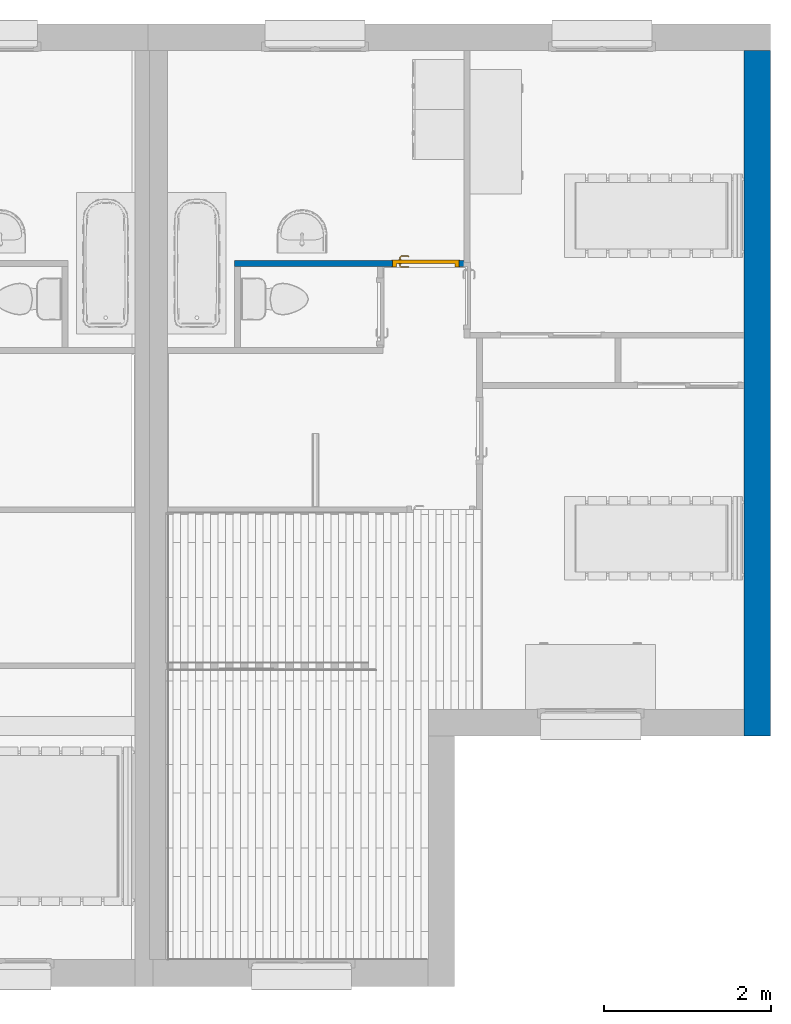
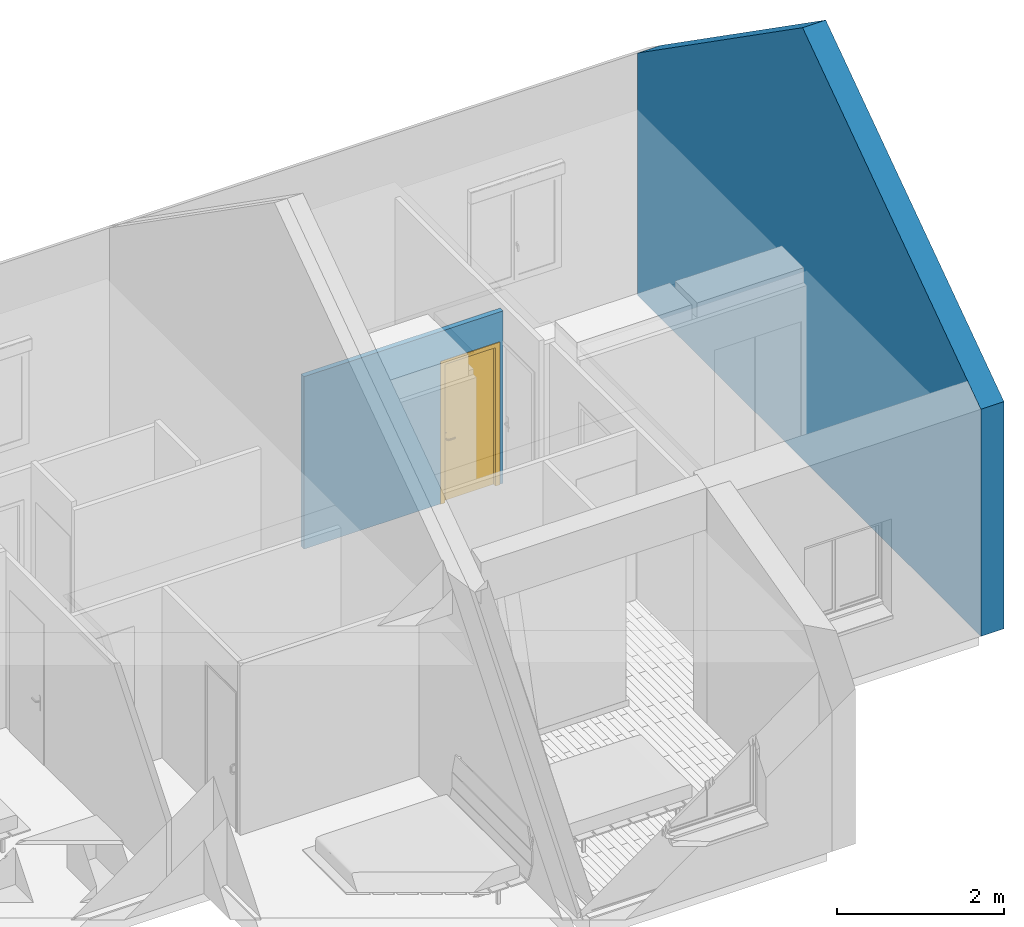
# One storey, part 37 of 50: 2 walls, 1 door, 1 opening.
"""IFC2X3 building model written with IfcOpenShell, lengths in metres."""

from ifc_helpers import new_model, entity, si_unit, converted_unit, derived_unit, direction, frame, frame_2d, origin, place, context, subcontext, project, spatial, polyline, rectangle, extrude, clip, bounded_halfspace, faceted_brep, source, transform, mapped, material, material_list, layer, layer_set, layer_usage, type_object, type_shapes, element, fill, save


model = new_model("IFC2X3")

# Units and contexts
model_context = context("Model", 3, precision=1e-05, world=origin(), true_north=direction((6.12303176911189e-17, 1.0)))
context_of_model = context(None, 3, precision=1e-05, world=origin(), true_north=direction((6.12303176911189e-17, 1.0)))
body_context = subcontext(model_context, "Body", "Model", "MODEL_VIEW")
ifc_project = project(units=[si_unit("LENGTHUNIT", "METRE"), si_unit("AREAUNIT", "SQUARE_METRE"), si_unit("VOLUMEUNIT", "CUBIC_METRE"), converted_unit("PLANEANGLEUNIT", "DEGREE", entity("IfcRatioMeasure", 0.0174532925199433), si_unit("PLANEANGLEUNIT", "RADIAN"), dimensions=[0, 0, 0, 0, 0, 0, 0]), si_unit("MASSUNIT", "GRAM", prefix="KILO"), si_unit("TIMEUNIT", "SECOND"), si_unit("FREQUENCYUNIT", "HERTZ"), si_unit("THERMODYNAMICTEMPERATUREUNIT", "DEGREE_CELSIUS"), derived_unit("THERMALTRANSMITTANCEUNIT", [(si_unit("MASSUNIT", "GRAM", prefix="KILO"), 1), (si_unit("THERMODYNAMICTEMPERATUREUNIT", "KELVIN"), -1), (si_unit("TIMEUNIT", "SECOND"), -3)]), derived_unit("VOLUMETRICFLOWRATEUNIT", [(si_unit("LENGTHUNIT", "METRE"), 3), (si_unit("TIMEUNIT", "SECOND"), -1)]), si_unit("ELECTRICCURRENTUNIT", "AMPERE"), si_unit("ELECTRICVOLTAGEUNIT", "VOLT"), si_unit("POWERUNIT", "WATT"), si_unit("FORCEUNIT", "NEWTON", prefix="KILO"), si_unit("ILLUMINANCEUNIT", "LUX"), si_unit("LUMINOUSFLUXUNIT", "LUMEN"), si_unit("LUMINOUSINTENSITYUNIT", "CANDELA"), si_unit("PRESSUREUNIT", "PASCAL")], contexts=[model_context, context_of_model])

# Site, building, storey
site_placement = place(None, origin())
site = spatial("IfcSite", under=ifc_project, at=site_placement, Name="Surface", CompositionType="ELEMENT")
building_placement = place(site_placement, origin())
building = spatial("IfcBuilding", under=site, at=building_placement, CompositionType="ELEMENT")
storey_placement = place(building_placement, frame((0.0, 0.0, 2.82)))
storey = spatial("IfcBuildingStorey", under=building, at=storey_placement, Name="ETAGE", CompositionType="ELEMENT", Elevation=2.82)

# Wall
ifc_material_1 = material(Name="Enduit blanc cassé2")
ifc_layer_1 = layer(ifc_material_1, 0.02)
ifc_material_2 = material(Name="Parpaing")
ifc_layer_2 = layer(ifc_material_2, 0.2)
ifc_material_3 = material(Name="Isolant")
ifc_layer_3 = layer(ifc_material_3, 0.1)
ifc_layer_set_1 = layer_set([ifc_layer_1, ifc_layer_2, ifc_layer_3], Name="Mur de base:Ext. Parpaing 20 + Isolant 10 enduit blanc cassé")
ifc_layer_usage_1 = layer_usage(ifc_layer_set_1, "AXIS2", "NEGATIVE", 0.16)
wall_type_1 = type_object("IfcWallType", Name="Mur de base:Ext. Parpaing 20 + Isolant 10 enduit blanc cassé", PredefinedType="STANDARD", material=ifc_layer_set_1)
wall_1_placement = place(storey_placement, frame((90.9950487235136, 92.1475239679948, 0.0), z_axis=(0.0, 0.0, 1.0), x_axis=(0.0, -1.0, 0.0)))
element("IfcWallStandardCase", 1, at=wall_1_placement, inside=storey, type_object=wall_type_1, material=ifc_layer_usage_1, Name="Mur de base:Ext. Parpaing 20 + Isolant 10 enduit blanc cassé", ObjectType="Mur de base:Ext. Parpaing 20 + Isolant 10 enduit blanc cassé", context=body_context, shape_type="Clipping", body=[
    clip(clip(extrude(rectangle(XDim=8.22, YDim=0.319999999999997, at=frame_2d((4.11, 5.55111512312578e-16), x_axis=(-1.0, 0.0))), origin(), (0.0, 0.0, 1.0), 6.30988618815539), bounded_halfspace(frame((0.0, -0.159999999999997, 3.5440664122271), z_axis=(-0.573576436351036, 0.0, 0.819152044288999), x_axis=(0.0, -1.0, 0.0)), False, frame((0.0, -0.159999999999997, 3.5440664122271)), polyline([(0.0, 0.0), (3.95000000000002, 0.0), (3.95000000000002, 0.320000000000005), (0.0, 0.319999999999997), (0.0, 0.0)]))), bounded_halfspace(frame((3.95000000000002, -0.160000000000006, 6.30988618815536), z_axis=(0.573576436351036, 0.0, 0.819152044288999), x_axis=(0.0, 1.0, 0.0)), False, frame((3.95000000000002, -0.160000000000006, 6.30988618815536)), polyline([(0.0, 0.0), (3.94999999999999, 0.0), (4.26999999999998, 0.0), (4.26999999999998, 0.320000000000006), (0.0, 0.319999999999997), (0.0, 0.0)]))),
])

# Wall, opening, door
ifc_material_4 = material(Name="Peinture - Blanc")
ifc_layer_4 = layer(ifc_material_4, 0.07)
ifc_layer_set_2 = layer_set([ifc_layer_4], Name="Mur de base:Int.  Platre 70 mm en blanc")
ifc_layer_usage_2 = layer_usage(ifc_layer_set_2, "AXIS2", "NEGATIVE", 0.035)
wall_type_2 = type_object("IfcWallType", Name="Mur de base:Int.  Platre 70 mm en blanc", PredefinedType="STANDARD", material=ifc_layer_set_2)
wall_2_placement = place(storey_placement, frame((84.7267857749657, 89.5925239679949, 0.0)))
wall_2 = element("IfcWallStandardCase", 2, at=wall_2_placement, inside=storey, type_object=wall_type_2, material=ifc_layer_usage_2, Name="Mur de base:Int.  Platre 70 mm en blanc", ObjectType="Mur de base:Int.  Platre 70 mm en blanc", context=body_context, shape_type="SweptSolid", body=[
    extrude(rectangle(XDim=2.75211659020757, YDim=0.0699999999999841, at=frame_2d((1.37605829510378, -2.04697370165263e-15), x_axis=(-1.0, 0.0))), origin(), (0.0, 0.0, 1.0), 2.52),
])
opening_placement = place(wall_2_placement, frame((1.89355829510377, -0.034999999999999, 0.0)))
opening = element("IfcOpeningElement", 3, at=opening_placement, cuts=wall_2, Name="FR_Simple (R):73 x 204 - (70):1", ObjectType="Opening", context=body_context, shape_type="SweptSolid", body=[
    extrude(rectangle(XDim=2.075, YDim=0.799999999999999, at=frame_2d((1.0375, 0.4), x_axis=(1.0, 0.0))), frame((0.0, 0.0, 0.0), z_axis=(0.0, 1.0, 0.0), x_axis=(0.0, 0.0, 1.0)), (0.0, 0.0, 1.0), 0.07),
])
ifc_material_5 = material(Name="Poignée Porte")
ifc_material_6 = material(Name="Dormants Portes")
ifc_material_7 = material(Name="Panneaux Portes")
ifc_material_list_1 = material_list([ifc_material_5, ifc_material_6, ifc_material_7])
ifc_material_list_2 = material_list([ifc_material_5, ifc_material_6, ifc_material_7])
door_style = type_object("IfcDoorStyle", Name="73 x 204 - (70)", ConstructionType="NOTDEFINED", OperationType="SINGLE_SWING_RIGHT", ParameterTakesPrecedence=False, Sizeable=False, material=ifc_material_list_2)
shared_shape = source(origin(), body_context, "Body", "Brep", [
    faceted_brep([(0.710000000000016, -0.0130000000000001, 0.764641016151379), (0.720352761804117, -0.0130000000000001, 0.766003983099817), (0.730000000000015, -0.0130000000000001, 0.770000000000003), (0.730000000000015, -0.0130000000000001, 0.980000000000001), (0.720352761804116, -0.0130000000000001, 0.983996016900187), (0.710000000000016, -0.0130000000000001, 0.985358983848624), (0.699647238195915, -0.0130000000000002, 0.983996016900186), (0.690000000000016, -0.0130000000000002, 0.980000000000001), (0.690000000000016, -0.0130000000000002, 0.770000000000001), (0.699647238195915, -0.0130000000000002, 0.766003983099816), (0.730000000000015, -0.00800000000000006, 0.980000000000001), (0.730000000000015, -0.00800000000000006, 0.770000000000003), (0.720352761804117, -0.00800000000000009, 0.766003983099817), (0.710000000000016, -0.00800000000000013, 0.764641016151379), (0.699647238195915, -0.00800000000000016, 0.766003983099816), (0.690000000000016, -0.00800000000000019, 0.770000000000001), (0.690000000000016, -0.00800000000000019, 0.980000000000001), (0.699647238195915, -0.00800000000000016, 0.983996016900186), (0.710000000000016, -0.00800000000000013, 0.985358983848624), (0.720352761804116, -0.00800000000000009, 0.983996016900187)], [[[0, 1, 2, 3, 4, 5, 6, 7, 8, 9]], [[10, 11, 12, 13, 14, 15, 16, 17, 18, 19]], [[1, 12, 11, 2]], [[0, 13, 12, 1]], [[9, 14, 13, 0]], [[9, 8, 15, 14]], [[15, 8, 7, 16]], [[6, 17, 16, 7]], [[5, 18, 17, 6]], [[4, 19, 18, 5]], [[4, 3, 10, 19]], [[10, 3, 2, 11]]]),
    faceted_brep([(0.730000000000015, 0.0319999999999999, 0.770000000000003), (0.730000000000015, 0.0319999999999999, 0.980000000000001), (0.720352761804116, 0.0319999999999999, 0.983996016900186), (0.710000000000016, 0.0319999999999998, 0.985358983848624), (0.699647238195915, 0.0319999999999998, 0.983996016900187), (0.690000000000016, 0.0319999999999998, 0.980000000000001), (0.690000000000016, 0.0319999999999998, 0.770000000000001), (0.699647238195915, 0.0319999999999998, 0.766003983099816), (0.710000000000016, 0.0319999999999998, 0.764641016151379), (0.720352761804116, 0.0319999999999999, 0.766003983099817), (0.710000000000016, 0.0369999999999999, 0.985358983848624), (0.720352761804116, 0.0369999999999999, 0.983996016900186), (0.730000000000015, 0.0369999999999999, 0.980000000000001), (0.730000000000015, 0.0369999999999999, 0.770000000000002), (0.720352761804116, 0.0369999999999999, 0.766003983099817), (0.710000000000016, 0.0369999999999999, 0.764641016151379), (0.699647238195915, 0.0369999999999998, 0.766003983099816), (0.690000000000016, 0.0369999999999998, 0.770000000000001), (0.690000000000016, 0.0369999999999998, 0.980000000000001), (0.699647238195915, 0.0369999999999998, 0.983996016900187)], [[[0, 1, 2, 3, 4, 5, 6, 7, 8, 9]], [[10, 11, 12, 13, 14, 15, 16, 17, 18, 19]], [[4, 19, 18, 5]], [[3, 10, 19, 4]], [[2, 11, 10, 3]], [[2, 1, 12, 11]], [[12, 1, 0, 13]], [[9, 14, 13, 0]], [[8, 15, 14, 9]], [[7, 16, 15, 8]], [[7, 6, 17, 16]], [[17, 6, 5, 18]]]),
    faceted_brep([(0.707974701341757, -0.0130000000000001, 0.907780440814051), (0.712025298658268, -0.0130000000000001, 0.907780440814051), (0.716000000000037, -0.0130000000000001, 0.906999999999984), (0.716000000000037, -0.0130000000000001, 0.892999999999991), (0.712025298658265, -0.0130000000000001, 0.892219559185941), (0.707974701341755, -0.0130000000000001, 0.89221955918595), (0.703999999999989, -0.0130000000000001, 0.893000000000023), (0.703999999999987, -0.0130000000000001, 0.90699999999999), (0.712025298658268, -0.0390045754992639, 0.907780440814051), (0.716000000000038, -0.0406509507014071, 0.906999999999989), (0.707974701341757, -0.0373267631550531, 0.907780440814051), (0.694298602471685, -0.0510028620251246, 0.907780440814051), (0.695976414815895, -0.0550534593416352, 0.907780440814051), (0.609142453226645, -0.0550534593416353, 0.90778044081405), (0.610820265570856, -0.0510028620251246, 0.90778044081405), (0.604342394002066, -0.0445249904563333, 0.90778044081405), (0.601478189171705, -0.0473891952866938, 0.90778044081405), (0.703999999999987, -0.0356803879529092, 0.90699999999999), (0.703999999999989, -0.0356803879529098, 0.893000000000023), (0.707974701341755, -0.0373267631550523, 0.89221955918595), (0.712025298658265, -0.0390045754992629, 0.89221955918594), (0.695976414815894, -0.0550534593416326, 0.89221955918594), (0.694298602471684, -0.0510028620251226, 0.89221955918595), (0.610820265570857, -0.0510028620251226, 0.89221955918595), (0.609142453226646, -0.0550534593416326, 0.89221955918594), (0.601478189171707, -0.0473891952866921, 0.89221955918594), (0.604342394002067, -0.044524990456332, 0.89221955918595), (0.716000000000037, -0.0406509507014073, 0.892999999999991), (0.69762279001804, -0.059028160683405, 0.906999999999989), (0.692652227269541, -0.0470281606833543, 0.90699999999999), (0.692652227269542, -0.0470281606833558, 0.893000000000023), (0.697622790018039, -0.0590281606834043, 0.892999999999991), (0.65255943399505, -0.053182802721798, 0.907878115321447), (0.657692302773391, -0.0590281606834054, 0.906999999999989), (0.607496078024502, -0.0590281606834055, 0.906999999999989), (0.652559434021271, -0.0470281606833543, 0.90699999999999), (0.612466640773, -0.0470281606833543, 0.906999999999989), (0.652559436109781, -0.0470281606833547, 0.893000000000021), (0.612466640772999, -0.0470281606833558, 0.893000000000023), (0.652559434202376, -0.0531828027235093, 0.892121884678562), (0.647426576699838, -0.0590281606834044, 0.892999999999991), (0.607496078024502, -0.0590281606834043, 0.892999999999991), (0.607152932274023, -0.0417144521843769, 0.89300000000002), (0.598667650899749, -0.0501997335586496, 0.892999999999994), (0.598667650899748, -0.0501997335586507, 0.906999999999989), (0.607152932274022, -0.0417144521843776, 0.906999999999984)], [[[0, 1, 2, 3, 4, 5, 6, 7]], [[2, 1, 8, 9]], [[1, 0, 10, 11, 12, 8]], [[13, 14, 15, 16]], [[0, 7, 17, 10]], [[18, 17, 7, 6]], [[5, 19, 18, 6]], [[5, 4, 20, 21, 22, 19]], [[23, 24, 25, 26]], [[3, 27, 20, 4]], [[9, 27, 3, 2]], [[9, 8, 12, 28]], [[10, 17, 29, 11]], [[30, 29, 17, 18]], [[18, 19, 22, 30]], [[20, 27, 31, 21]], [[28, 31, 27, 9]], [[12, 32, 33]], [[13, 33, 32]], [[33, 28, 12]], [[33, 13, 34]], [[11, 35, 32]], [[32, 12, 11]], [[32, 35, 14]], [[35, 11, 29]], [[36, 14, 35]], [[13, 32, 14]], [[30, 37, 38, 36, 35, 29]], [[39, 37, 22]], [[40, 41, 24]], [[40, 21, 31]], [[39, 21, 40]], [[23, 37, 39]], [[39, 24, 23]], [[30, 22, 37]], [[37, 23, 38]], [[21, 39, 22]], [[24, 39, 40]], [[31, 28, 33, 34, 41, 40]], [[42, 26, 25, 43, 44, 16, 15, 45]], [[13, 16, 44, 34]], [[36, 45, 15, 14]], [[42, 45, 36, 38]], [[38, 23, 26, 42]], [[24, 41, 43, 25]], [[44, 43, 41, 34]]]),
    faceted_brep([(0.712025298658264, 0.0369999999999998, 0.907780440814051), (0.707974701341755, 0.0369999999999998, 0.907780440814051), (0.703999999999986, 0.0369999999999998, 0.90699999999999), (0.703999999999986, 0.0369999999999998, 0.89300000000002), (0.707974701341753, 0.0369999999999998, 0.892219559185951), (0.712025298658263, 0.0369999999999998, 0.892219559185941), (0.716000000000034, 0.0369999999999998, 0.892999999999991), (0.716000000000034, 0.0369999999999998, 0.90699999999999), (0.703999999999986, 0.0594852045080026, 0.90699999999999), (0.703999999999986, 0.0594852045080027, 0.89300000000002), (0.707974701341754, 0.0611315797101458, 0.907780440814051), (0.712025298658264, 0.0628093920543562, 0.907780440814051), (0.695838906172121, 0.0789957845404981, 0.907780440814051), (0.69416109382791, 0.0749451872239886, 0.907780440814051), (0.610793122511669, 0.0749451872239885, 0.907780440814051), (0.609115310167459, 0.0789957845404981, 0.907780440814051), (0.601451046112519, 0.071331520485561, 0.907780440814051), (0.604315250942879, 0.0684673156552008, 0.907780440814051), (0.716000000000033, 0.0644557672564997, 0.90699999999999), (0.716000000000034, 0.0644557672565, 0.892999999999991), (0.712025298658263, 0.0628093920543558, 0.892219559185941), (0.707974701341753, 0.0611315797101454, 0.892219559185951), (0.69416109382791, 0.0749451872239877, 0.892219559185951), (0.69583890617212, 0.0789957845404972, 0.892219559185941), (0.609115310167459, 0.0789957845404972, 0.89221955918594), (0.610793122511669, 0.0749451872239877, 0.89221955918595), (0.60431525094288, 0.0684673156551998, 0.89221955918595), (0.60145104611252, 0.07133152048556, 0.89221955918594), (0.692514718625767, 0.07097048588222, 0.89300000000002), (0.692514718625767, 0.0709704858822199, 0.90699999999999), (0.697485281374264, 0.0829704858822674, 0.90699999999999), (0.697485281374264, 0.082970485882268, 0.892999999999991), (0.652477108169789, 0.0709704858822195, 0.90699999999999), (0.612439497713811, 0.0709704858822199, 0.90699999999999), (0.612439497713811, 0.0709704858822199, 0.89300000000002), (0.652477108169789, 0.0709704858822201, 0.89300000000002), (0.652477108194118, 0.0771249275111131, 0.907878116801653), (0.647399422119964, 0.0829704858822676, 0.90699999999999), (0.607468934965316, 0.0829704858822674, 0.90699999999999), (0.657554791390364, 0.0829704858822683, 0.892999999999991), (0.607468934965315, 0.082970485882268, 0.892999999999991), (0.65247710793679, 0.0771249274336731, 0.892121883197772), (0.598640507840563, 0.0741420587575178, 0.90699999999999), (0.598640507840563, 0.074142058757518, 0.892999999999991), (0.607125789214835, 0.0656567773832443, 0.89300000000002), (0.607125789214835, 0.0656567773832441, 0.90699999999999)], [[[0, 1, 2, 3, 4, 5, 6, 7]], [[8, 9, 3, 2]], [[1, 10, 8, 2]], [[1, 0, 11, 12, 13, 10]], [[14, 15, 16, 17]], [[7, 18, 11, 0]], [[18, 7, 6, 19]], [[6, 5, 20, 19]], [[5, 4, 21, 22, 23, 20]], [[24, 25, 26, 27]], [[4, 3, 9, 21]], [[28, 9, 8, 29]], [[8, 10, 13, 29]], [[18, 30, 12, 11]], [[31, 30, 18, 19]], [[19, 20, 23, 31]], [[21, 9, 28, 22]], [[28, 29, 32, 33, 34, 35]], [[36, 32, 13]], [[37, 38, 15]], [[37, 12, 30]], [[36, 12, 37]], [[14, 32, 36]], [[36, 15, 14]], [[29, 13, 32]], [[32, 14, 33]], [[12, 36, 13]], [[15, 36, 37]], [[30, 31, 39, 40, 38, 37]], [[23, 41, 39]], [[24, 39, 41]], [[39, 31, 23]], [[39, 24, 40]], [[22, 35, 41]], [[41, 23, 22]], [[41, 35, 25]], [[35, 22, 28]], [[34, 25, 35]], [[24, 41, 25]], [[17, 16, 42, 43, 27, 26, 44, 45]], [[44, 34, 33, 45]], [[33, 14, 17, 45]], [[15, 38, 42, 16]], [[42, 38, 40, 43]], [[24, 27, 43, 40]], [[34, 44, 26, 25]]]),
    faceted_brep([(0.800000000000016, 0.0, 0.0), (0.810000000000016, 0.0, 0.0), (0.810000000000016, -0.00799999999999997, 0.0), (0.765000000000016, -0.00799999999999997, 0.0), (0.765000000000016, 0.032, 0.0), (0.750000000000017, 0.032, 0.0), (0.750000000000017, 0.0780000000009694, 0.0), (0.810000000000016, 0.0780000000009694, 0.0), (0.810000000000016, 0.0700000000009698, 0.0), (0.800000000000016, 0.0700000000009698, 0.0), (0.800000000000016, 0.0700000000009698, 2.075), (0.800000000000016, 0.0, 2.075), (0.810000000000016, 0.0700000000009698, 2.085), (-0.00999999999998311, 0.0700000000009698, 2.085), (-0.00999999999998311, 0.0700000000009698, 0.0), (0.0, 0.0700000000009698, 0.0), (0.0, 0.0700000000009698, 2.075), (0.810000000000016, 0.0780000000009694, 2.085), (0.750000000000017, 0.0780000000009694, 2.025), (0.0500000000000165, 0.0780000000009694, 2.025), (0.0500000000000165, 0.0780000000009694, 0.0), (-0.00999999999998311, 0.0780000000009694, 0.0), (-0.00999999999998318, 0.0780000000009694, 2.085), (0.750000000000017, 0.032, 2.025), (0.765000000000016, 0.032, 2.04), (0.0350000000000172, 0.032, 2.04), (0.0350000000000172, 0.032, 0.0), (0.0500000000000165, 0.032, 0.0), (0.0500000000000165, 0.032, 2.025), (0.765000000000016, -0.00799999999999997, 2.04), (0.810000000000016, -0.00799999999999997, 2.085), (-0.00999999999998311, -0.00799999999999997, 2.085), (-0.00999999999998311, -0.00799999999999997, 0.0), (0.0350000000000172, -0.00799999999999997, 0.0), (0.0350000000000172, -0.00799999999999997, 2.04), (0.810000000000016, 0.0, 2.085), (0.0, 0.0, 2.075), (0.0, 0.0, 0.0), (-0.00999999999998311, 0.0, 0.0), (-0.00999999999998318, 0.0, 2.085)], [[[0, 1, 2, 3, 4, 5, 6, 7, 8, 9]], [[9, 10, 11, 0]], [[8, 12, 13, 14, 15, 16, 10, 9]], [[7, 17, 12, 8]], [[6, 18, 19, 20, 21, 22, 17, 7]], [[5, 23, 18, 6]], [[4, 24, 25, 26, 27, 28, 23, 5]], [[3, 29, 24, 4]], [[2, 30, 31, 32, 33, 34, 29, 3]], [[1, 35, 30, 2]], [[0, 11, 36, 37, 38, 39, 35, 1]], [[10, 16, 36, 11]], [[17, 22, 13, 12]], [[23, 28, 19, 18]], [[29, 34, 25, 24]], [[35, 39, 31, 30]], [[37, 15, 14, 21, 20, 27, 26, 33, 32, 38]], [[16, 15, 37, 36]], [[22, 21, 14, 13]], [[28, 27, 20, 19]], [[34, 33, 26, 25]], [[39, 38, 32, 31]]]),
    faceted_brep([(0.765000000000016, -0.00799999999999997, 2.04), (0.0350000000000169, -0.00799999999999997, 2.04), (0.0350000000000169, -0.00799999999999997, 0.0), (0.765000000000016, -0.00799999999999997, 0.0), (0.765000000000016, 0.032, 2.04), (0.765000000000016, 0.032, 0.0), (0.0350000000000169, 0.032, 0.0), (0.0350000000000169, 0.032, 2.04)], [[[0, 1, 2, 3]], [[4, 5, 6, 7]], [[3, 5, 4, 0]], [[2, 6, 5, 3]], [[1, 7, 6, 2]], [[0, 4, 7, 1]]]),
])
type_shapes(door_style, [shared_shape])
door_placement = place(opening_placement, frame((0.800000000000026, 0.069999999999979, 0.0), z_axis=(0.0, 0.0, 1.0), x_axis=(-1.0, 0.0, 0.0)))
door = element("IfcDoor", 4, at=door_placement, inside=storey, type_object=door_style, material=ifc_material_list_1, Name="FR_Simple (R):73 x 204 - (70)", ObjectType="73 x 204 - (70)", OverallHeight=2.075, OverallWidth=0.800000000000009, context=body_context, shape_type="MappedRepresentation", body=[
    mapped(shared_shape, transform((0.0, 0.0, 0.0), scale=1.0)),
])
fill(opening, door)

save(model, "model.ifc")
